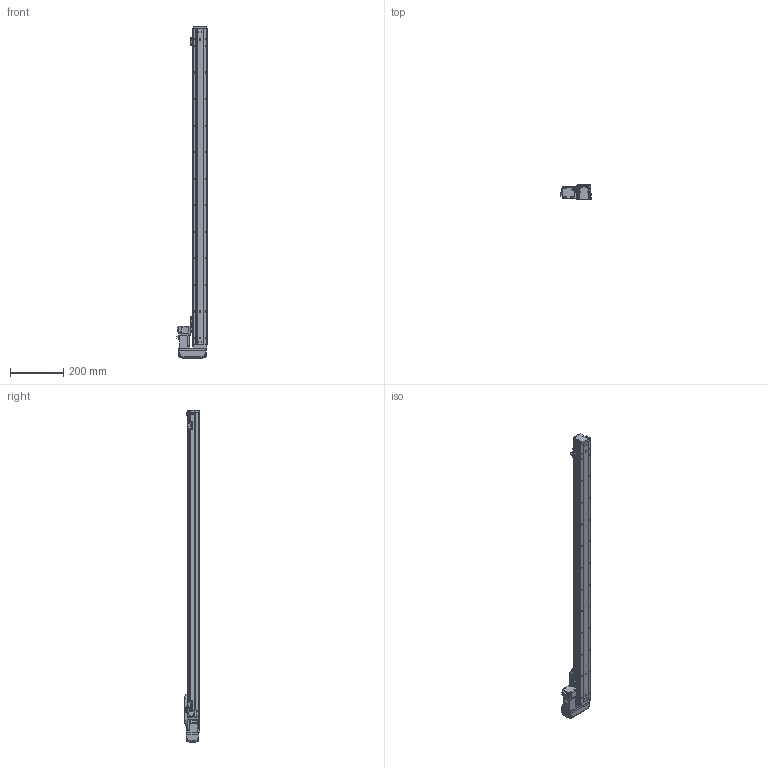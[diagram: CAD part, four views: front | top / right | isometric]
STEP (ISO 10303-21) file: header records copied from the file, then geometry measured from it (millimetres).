
FILE_DESCRIPTION (( 'STEP AP203' ), '1' );
FILE_NAME ('GTH5-1050-BL-M10-C4.step', '2023-08-28T00:48:09', ( '微软用户' ), ( '微软中国' ), 'SwSTEP 2.0', 'SolidWorks 2020', '' );
FILE_SCHEMA (( 'CONFIG_CONTROL_DESIGN' ));
Length unit declared in the file: millimetre
Products named in the file (19): GBT 70.1-M2.5×6; GTH50-003; GTH50-028; GTH50-006; GTH50-013; GTH50-022-1; GTH50-004; GTH50-023; HG-KR13; GBT 70.3-M3℅6; GBT 70.1-M3℅6; GTH50-027-1_BTHA50-027-2; BTH-M3X5X6; GBT96.1-2002 3×0.8; GTH50-026; GTH50-001_1050; GTH50-024; GTH5-1050-BL-M10-C4; GBT 70.1-M4×16
Assembly tree (57 placements, depth 2):
  GTH5-1050-BL-M10-C4
    GTH50-006
    GTH50-004
    GBT 70.3-M3℅6  x4
    BTH-M3X5X6  x8
    GTH50-001_1050
    GBT 70.1-M4×16  x8
    GTH50-003
    GTH50-013
    GTH50-023  x3
    GBT 70.1-M3℅6  x12
    GBT96.1-2002 3×0.8  x6
    GTH50-024  x3
    GBT 70.1-M2.5×6  x2
    GTH50-028  x2
    GTH50-022-1
    HG-KR13
    GTH50-027-1_BTHA50-027-2
    GTH50-026
Bounding box: 113.8 x 60 x 1250 mm (x, y, z)
Volume: 2736730.3 mm3; surface area: 414206.3 mm2
Topology: 59 solids, 59 shells, 2180 faces, 5076 edges, 3116 vertices
Faces by surface type: plane 1142, cylinder 609, cone 219, torus 162, bspline 40, sphere 8
Entity records: 40900 total; most frequent: CARTESIAN_POINT 8067, DIRECTION 6325, ORIENTED_EDGE 6066, EDGE_CURVE 3033, AXIS2_PLACEMENT_3D 2212, VERTEX_POINT 1918, LINE 1901, VECTOR 1901
